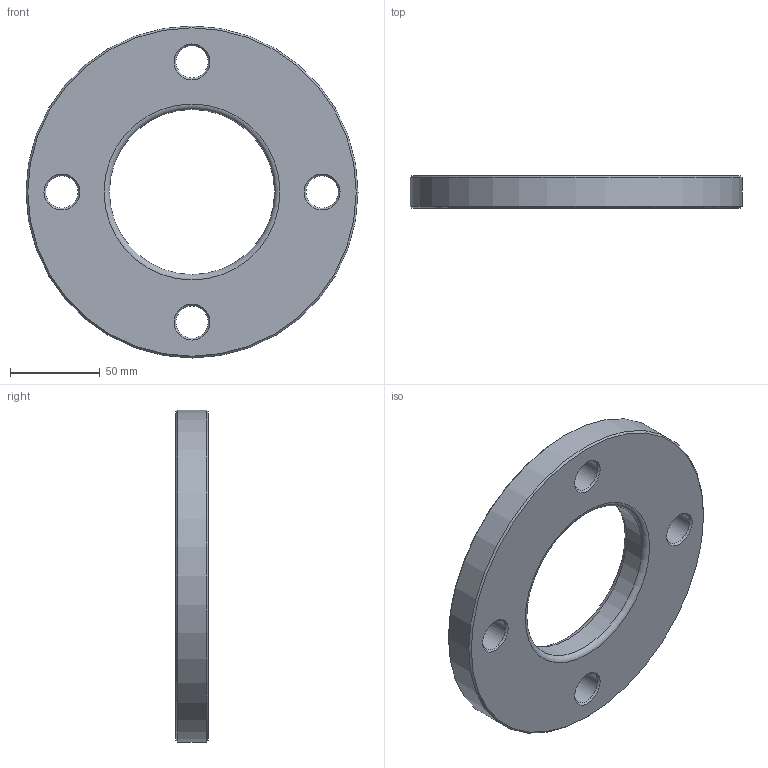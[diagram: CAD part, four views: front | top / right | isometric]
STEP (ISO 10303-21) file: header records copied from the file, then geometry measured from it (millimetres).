
FILE_DESCRIPTION(/* description */ ('Unknown'),/* implementation_level */ '2;1');
FILE_NAME(/* name */ 'FR075C',/* time_stamp */ '2022-07-05T16:11:51+02:00',/* author */ ('Unknown'),/* organization */ ('Unknown'),/* preprocessor_version */ 'ST-DEVELOPER v18.102',/* originating_system */ 'Solid Edge',/* authorisation */ 'Unknown');
FILE_SCHEMA (('AUTOMOTIVE_DESIGN {1 0 10303 214 3 1 1}'));
Length unit declared in the file: millimetre
Products named in the file (1): FR075C
Bounding box: 185 x 18 x 185 mm (x, y, z)
Volume: 343919.4 mm3; surface area: 56490.6 mm2
Topology: 1 solids, 1 shells, 20 faces, 54 edges, 36 vertices
Faces by surface type: cone 10, cylinder 6, plane 2, torus 2
Full cylindrical faces by diameter (mm): 18 x4, 92 x1, 185 x1
Entity records: 494 total; most frequent: DIRECTION 90, CARTESIAN_POINT 69, ORIENTED_EDGE 48, EDGE_LOOP 48, FACE_BOUND 48, AXIS2_PLACEMENT_3D 45, EDGE_CURVE 24, VERTEX_POINT 24
